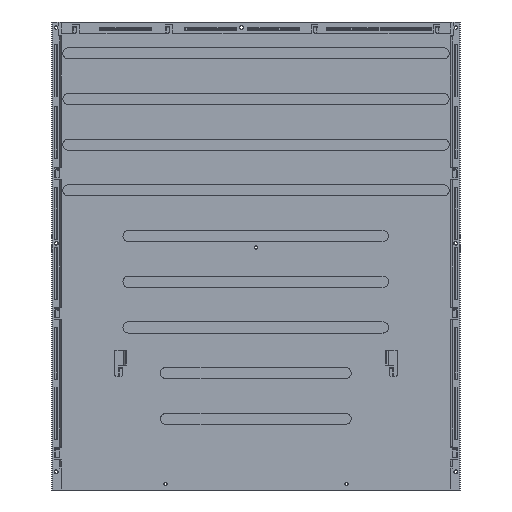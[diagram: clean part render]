
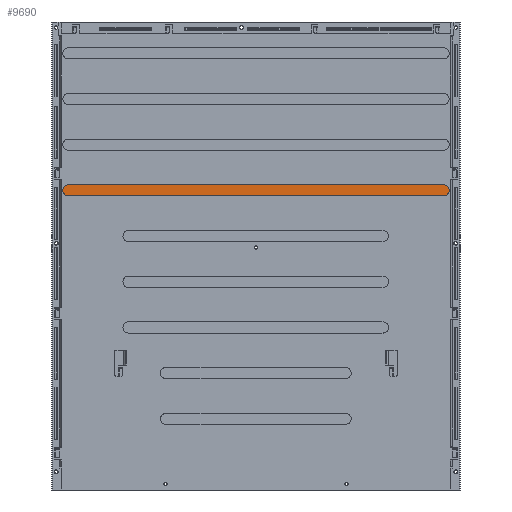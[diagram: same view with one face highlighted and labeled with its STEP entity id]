
A CAD part, front view. The second image highlights one B-rep face of the part: STEP entity #9690.
In plain terms, the highlighted planar face has unit normal (0, -1, 0) as drawn and (0, 0, 1) by its records, which use the part's own axes.
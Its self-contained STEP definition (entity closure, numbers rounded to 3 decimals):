
#9280=CARTESIAN_POINT('',(-79.587,250.512,-41.2));
#9290=DIRECTION('',(0.,0.,-1.));
#9300=DIRECTION('',(1.,0.,0.));
#9310=AXIS2_PLACEMENT_3D('',#9280,#9290,#9300);
#9320=PLANE('',#9310);
#9330=CARTESIAN_POINT('',(201.2,-22.836,-41.2));
#9340=DIRECTION('',(0.,0.,1.));
#9350=DIRECTION('',(1.,0.,0.));
#9360=AXIS2_PLACEMENT_3D('',#9330,#9340,#9350);
#9370=CIRCLE('',#9360,6.);
#9380=CARTESIAN_POINT('',(201.2,-28.836,-41.2));
#9390=VERTEX_POINT('',#9380);
#9400=CARTESIAN_POINT('',(201.2,-16.836,-41.2));
#9410=VERTEX_POINT('',#9400);
#9420=EDGE_CURVE('',#9390,#9410,#9370,.T.);
#9430=ORIENTED_EDGE('',*,*,#9420,.T.);
#9440=CARTESIAN_POINT('',(0.,-28.836,-41.2));
#9450=DIRECTION('',(1.,0.,0.));
#9460=VECTOR('',#9450,1.);
#9470=LINE('',#9440,#9460);
#9480=CARTESIAN_POINT('',(-201.2,-28.836,-41.2));
#9490=VERTEX_POINT('',#9480);
#9500=EDGE_CURVE('',#9490,#9390,#9470,.T.);
#9510=ORIENTED_EDGE('',*,*,#9500,.T.);
#9520=CARTESIAN_POINT('',(-201.2,-22.836,-41.2));
#9530=DIRECTION('',(0.,0.,1.));
#9540=DIRECTION('',(1.,0.,0.));
#9550=AXIS2_PLACEMENT_3D('',#9520,#9530,#9540);
#9560=CIRCLE('',#9550,6.);
#9570=CARTESIAN_POINT('',(-201.2,-16.836,-41.2));
#9580=VERTEX_POINT('',#9570);
#9590=EDGE_CURVE('',#9580,#9490,#9560,.T.);
#9600=ORIENTED_EDGE('',*,*,#9590,.T.);
#9610=CARTESIAN_POINT('',(0.,-16.836,-41.2));
#9620=DIRECTION('',(-1.,0.,0.));
#9630=VECTOR('',#9620,1.);
#9640=LINE('',#9610,#9630);
#9650=EDGE_CURVE('',#9410,#9580,#9640,.T.);
#9660=ORIENTED_EDGE('',*,*,#9650,.T.);
#9670=EDGE_LOOP('',(#9660,#9600,#9510,#9430));
#9680=FACE_OUTER_BOUND('',#9670,.T.);
#9690=ADVANCED_FACE('',(#9680),#9320,.F.);
